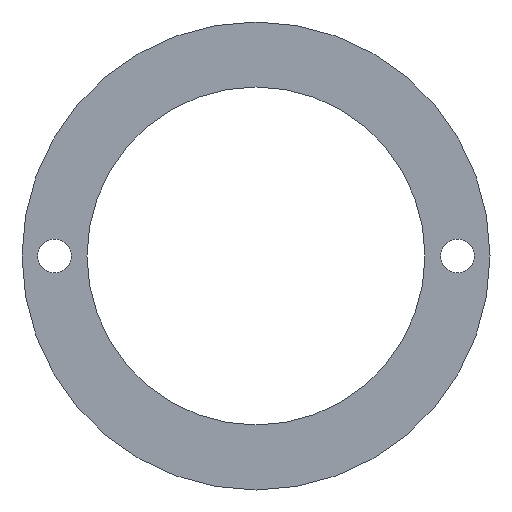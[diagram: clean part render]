
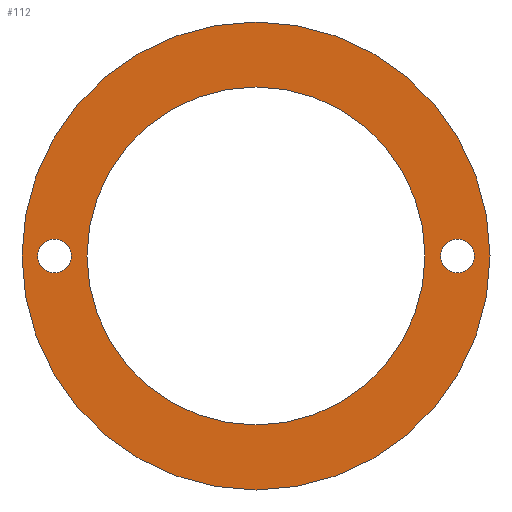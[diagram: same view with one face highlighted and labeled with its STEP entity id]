
A CAD part, front view. The second image highlights one B-rep face of the part: STEP entity #112.
In plain terms, the highlighted planar face has unit normal (0, -1, 0).
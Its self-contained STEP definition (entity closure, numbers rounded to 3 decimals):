
#6 = ORIENTED_EDGE ( 'NONE', *, *, #221, .T. ) ;
#12 = DIRECTION ( 'NONE',  ( 0., 1., 0. ) ) ;
#22 = EDGE_CURVE ( 'NONE', #264, #272, #73, .T. ) ;
#23 = DIRECTION ( 'NONE',  ( 0., 1., 0. ) ) ;
#26 = AXIS2_PLACEMENT_3D ( 'NONE', #192, #76, #361 ) ;
#27 = CARTESIAN_POINT ( 'NONE',  ( 0., 0., 0. ) ) ;
#29 = ORIENTED_EDGE ( 'NONE', *, *, #136, .F. ) ;
#30 = EDGE_CURVE ( 'NONE', #91, #155, #138, .T. ) ;
#33 = CARTESIAN_POINT ( 'NONE',  ( 0., 0., 0. ) ) ;
#35 = CIRCLE ( 'NONE', #284, 3.25 ) ;
#40 = DIRECTION ( 'NONE',  ( 0., 0., 1. ) ) ;
#45 = EDGE_LOOP ( 'NONE', ( #6, #246 ) ) ;
#48 = FACE_BOUND ( 'NONE', #45, .T. ) ;
#61 = AXIS2_PLACEMENT_3D ( 'NONE', #33, #241, #123 ) ;
#70 = DIRECTION ( 'NONE',  ( 0., 0., 1. ) ) ;
#71 = CARTESIAN_POINT ( 'NONE',  ( 38.75, 0., -3.25 ) ) ;
#72 = DIRECTION ( 'NONE',  ( 0., 1., 0. ) ) ;
#73 = CIRCLE ( 'NONE', #331, 32.5 ) ;
#76 = DIRECTION ( 'NONE',  ( 0., 1., 0. ) ) ;
#77 = AXIS2_PLACEMENT_3D ( 'NONE', #283, #255, #296 ) ;
#82 = DIRECTION ( 'NONE',  ( 0., 1., 0. ) ) ;
#83 = EDGE_CURVE ( 'NONE', #317, #173, #267, .T. ) ;
#91 = VERTEX_POINT ( 'NONE', #153 ) ;
#109 = FACE_BOUND ( 'NONE', #346, .T. ) ;
#111 = AXIS2_PLACEMENT_3D ( 'NONE', #219, #23, #162 ) ;
#112 = ADVANCED_FACE ( 'NONE', ( #206, #48, #189, #109 ), #118, .F. ) ;
#113 = VERTEX_POINT ( 'NONE', #183 ) ;
#116 = EDGE_CURVE ( 'NONE', #173, #317, #35, .T. ) ;
#118 = PLANE ( 'NONE',  #61 ) ;
#123 = DIRECTION ( 'NONE',  ( 0., 0., 1. ) ) ;
#132 = CIRCLE ( 'NONE', #26, 32.5 ) ;
#133 = EDGE_LOOP ( 'NONE', ( #240, #310 ) ) ;
#136 = EDGE_CURVE ( 'NONE', #329, #113, #328, .T. ) ;
#138 = CIRCLE ( 'NONE', #77, 3.25 ) ;
#139 = AXIS2_PLACEMENT_3D ( 'NONE', #167, #269, #340 ) ;
#143 = CARTESIAN_POINT ( 'NONE',  ( 38.75, 0., 0. ) ) ;
#145 = ORIENTED_EDGE ( 'NONE', *, *, #83, .T. ) ;
#153 = CARTESIAN_POINT ( 'NONE',  ( -38.75, 0., 3.25 ) ) ;
#154 = DIRECTION ( 'NONE',  ( 0., 1., 0. ) ) ;
#155 = VERTEX_POINT ( 'NONE', #330 ) ;
#162 = DIRECTION ( 'NONE',  ( 0., 0., 1. ) ) ;
#167 = CARTESIAN_POINT ( 'NONE',  ( 38.75, 0., 0. ) ) ;
#173 = VERTEX_POINT ( 'NONE', #355 ) ;
#174 = DIRECTION ( 'NONE',  ( 0., 0., 1. ) ) ;
#182 = CARTESIAN_POINT ( 'NONE',  ( 0., 0., 0. ) ) ;
#183 = CARTESIAN_POINT ( 'NONE',  ( 0., 0., -45. ) ) ;
#184 = CARTESIAN_POINT ( 'NONE',  ( -38.75, 0., 0. ) ) ;
#189 = FACE_BOUND ( 'NONE', #133, .T. ) ;
#190 = ORIENTED_EDGE ( 'NONE', *, *, #116, .T. ) ;
#192 = CARTESIAN_POINT ( 'NONE',  ( 0., 0., 0. ) ) ;
#199 = EDGE_CURVE ( 'NONE', #113, #329, #239, .T. ) ;
#206 = FACE_OUTER_BOUND ( 'NONE', #312, .T. ) ;
#213 = ORIENTED_EDGE ( 'NONE', *, *, #199, .F. ) ;
#216 = CARTESIAN_POINT ( 'NONE',  ( 0., 0., 45. ) ) ;
#219 = CARTESIAN_POINT ( 'NONE',  ( 0., 0., 0. ) ) ;
#221 = EDGE_CURVE ( 'NONE', #272, #264, #132, .T. ) ;
#239 = CIRCLE ( 'NONE', #335, 45. ) ;
#240 = ORIENTED_EDGE ( 'NONE', *, *, #338, .T. ) ;
#241 = DIRECTION ( 'NONE',  ( 0., 1., 0. ) ) ;
#246 = ORIENTED_EDGE ( 'NONE', *, *, #22, .T. ) ;
#251 = CARTESIAN_POINT ( 'NONE',  ( 0., 0., -32.5 ) ) ;
#255 = DIRECTION ( 'NONE',  ( 0., 1., 0. ) ) ;
#264 = VERTEX_POINT ( 'NONE', #282 ) ;
#267 = CIRCLE ( 'NONE', #139, 3.25 ) ;
#269 = DIRECTION ( 'NONE',  ( 0., 1., 0. ) ) ;
#272 = VERTEX_POINT ( 'NONE', #251 ) ;
#282 = CARTESIAN_POINT ( 'NONE',  ( 0., 0., 32.5 ) ) ;
#283 = CARTESIAN_POINT ( 'NONE',  ( -38.75, 0., 0. ) ) ;
#284 = AXIS2_PLACEMENT_3D ( 'NONE', #143, #72, #70 ) ;
#296 = DIRECTION ( 'NONE',  ( 0., 0., 1. ) ) ;
#310 = ORIENTED_EDGE ( 'NONE', *, *, #30, .T. ) ;
#312 = EDGE_LOOP ( 'NONE', ( #213, #29 ) ) ;
#317 = VERTEX_POINT ( 'NONE', #71 ) ;
#320 = DIRECTION ( 'NONE',  ( 0., 0., 1. ) ) ;
#328 = CIRCLE ( 'NONE', #111, 45. ) ;
#329 = VERTEX_POINT ( 'NONE', #216 ) ;
#330 = CARTESIAN_POINT ( 'NONE',  ( -38.75, 0., -3.25 ) ) ;
#331 = AXIS2_PLACEMENT_3D ( 'NONE', #27, #82, #174 ) ;
#333 = CIRCLE ( 'NONE', #344, 3.25 ) ;
#335 = AXIS2_PLACEMENT_3D ( 'NONE', #182, #12, #40 ) ;
#338 = EDGE_CURVE ( 'NONE', #155, #91, #333, .T. ) ;
#340 = DIRECTION ( 'NONE',  ( 0., 0., 1. ) ) ;
#344 = AXIS2_PLACEMENT_3D ( 'NONE', #184, #154, #320 ) ;
#346 = EDGE_LOOP ( 'NONE', ( #145, #190 ) ) ;
#355 = CARTESIAN_POINT ( 'NONE',  ( 38.75, 0., 3.25 ) ) ;
#361 = DIRECTION ( 'NONE',  ( 0., 0., 1. ) ) ;
